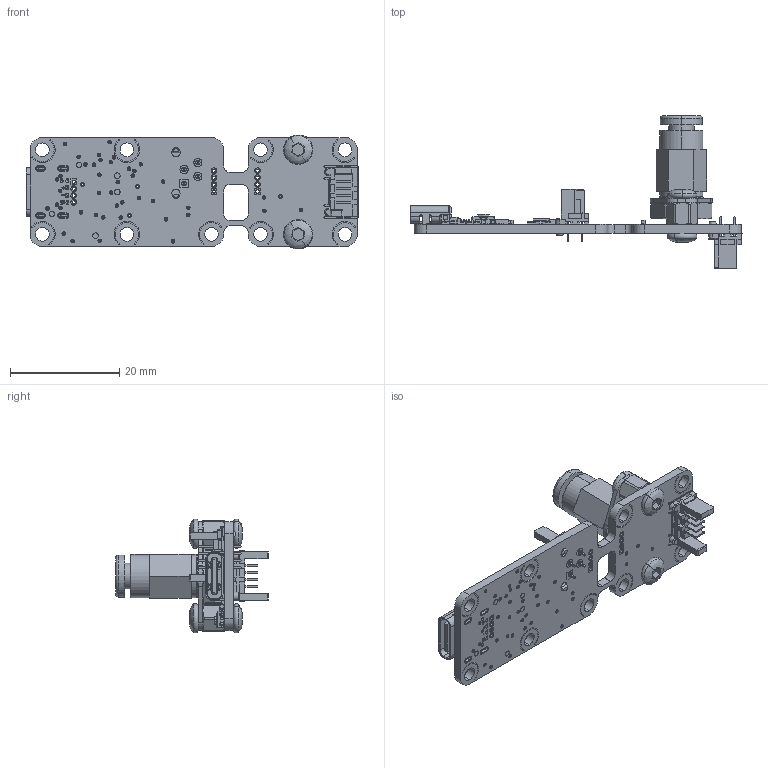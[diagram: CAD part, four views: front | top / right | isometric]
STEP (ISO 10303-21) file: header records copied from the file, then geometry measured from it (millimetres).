
FILE_DESCRIPTION (( 'STEP AP214' ), '1' );
FILE_NAME ('PRSSMK1C.STEP', '2025-12-09T14:13:33', ( '' ), ( '' ), 'SwSTEP 2.0', 'SolidWorks 2008', '' );
FILE_SCHEMA (( 'AUTOMOTIVE_DESIGN' ));
Length unit declared in the file: millimetre
Products named in the file (32): C18; R23; SENS2; SW1; R28; P5; U1; USB1; YLED; REG1; C2; yoctopressureUsbcA0; PCB; C16; PVSS; FLASH1; R12; R4; C9; C19; R1; R5; R8; T1; ecrou; o-ring; Bride Capteur; iSENSE; XD180227000810; R24-1000402; PRSSMK1C; KQH04-M6A
Assembly tree (43 placements, depth 3):
  PVSS
  PRSSMK1C
    R24-1000402  x2
    o-ring
    Bride Capteur
    ecrou
    XD180227000810  x4
    yoctopressureUsbcA0
      R8  x3
      YLED
      T1
      C9  x6
      iSENSE
      C19
      R1
      C2
      R5
      USB1
      P5  x2
      C18
      R23  x2
      C16
      PCB
      SENS2
      U1
      SW1
      REG1
      R4
      R12
      FLASH1
      R28
    KQH04-M6A
Bounding box: 60.88 x 28 x 20.9 mm (x, y, z)
Volume: 3372 mm3; surface area: 6556.4 mm2
Topology: 45 solids, 45 shells, 5969 faces, 15688 edges, 10195 vertices
Faces by surface type: plane 3740, cylinder 1524, bspline 560, sphere 80, torus 53, cone 12
Entity records: 232110 total; most frequent: CARTESIAN_POINT 57229, ORIENTED_EDGE 27246, DIRECTION 24708, EDGE_CURVE 13623, VECTOR 9806, LINE 9806, VERTEX_POINT 8960, AXIS2_PLACEMENT_3D 7451
